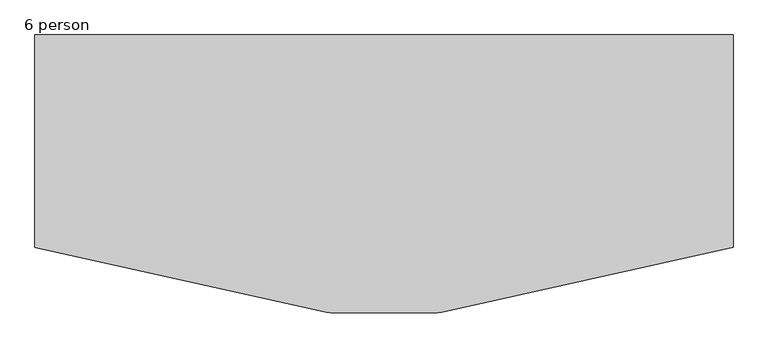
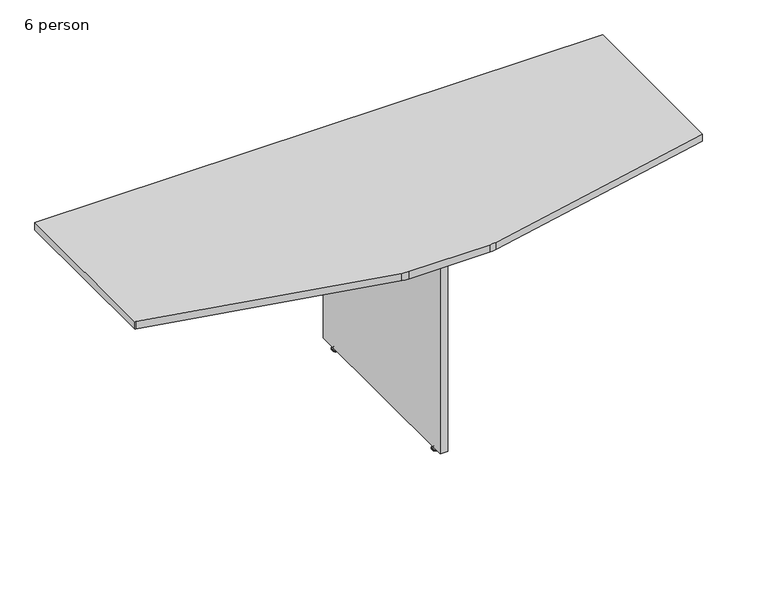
"""IFC4 building model written with IfcOpenShell, lengths in millimetres: furniture geometry, Nova Solutions - Collaboration Table - Boat_4-6 person : 6 person."""

from ifc_helpers import new_model, si_unit, point, frame, frame_2d, origin, place, context, project, spatial, polyline, circle_curve, ellipse_curve, trimmed, segment, composite_curve, outline, extrude, source, transform, mapped, element, save
from ifc_brep_helpers import plane_surface, cylinder_surface, revolved_surface, advanced_brep


def furniture_6_person_ace36e72(model_context):
    return source(origin(), model_context, "Body", "SolidModel", [
        advanced_brep(
        [(6.6776506, -631.3859375, 11.1125), (-6.6776506, -631.3859375, 11.1125), (0.0, -631.3859375, 11.1125), (6.6776506, -631.3859375, 9.525), (-6.6776506, -631.3859375, 9.525), (11.8855135, -631.3859375, 4.7748687), (-11.8855135, -631.3859375, 4.7748687), (12.7466506, -631.3859375, 3.989419), (-12.7466506, -631.3859375, 3.989419), (12.7466506, -631.3859375, 3.175), (-12.7466506, -631.3859375, 3.175), (11.8959119, -631.3859375, 0.0), (-11.8959119, -631.3859375, 0.0), (0.0, -631.3859375, 0.0)],
        [
            (0, 1, circle_curve(frame((0.0, -631.3859375, 11.1125), z_axis=(0.0, 0.0, 1.0), x_axis=(-1.0, 0.0, 0.0)), 6.6776506)),
            (1, 2),
            (2, 0),
            (1, 0, circle_curve(frame((0.0, -631.3859375, 11.1125), z_axis=(0.0, 0.0, 1.0), x_axis=(-1.0, 0.0, 0.0)), 6.6776506)),
            (3, 4, circle_curve(frame((0.0, -631.3859375, 9.525), z_axis=(0.0, 0.0, 1.0), x_axis=(-1.0, 0.0, 0.0)), 6.6776506)),
            (4, 1),
            (0, 3),
            (4, 3, circle_curve(frame((0.0, -631.3859375, 9.525), z_axis=(0.0, 0.0, 1.0), x_axis=(-1.0, 0.0, 0.0)), 6.6776506)),
            (5, 6, circle_curve(frame((0.0, -631.3859375, 4.7748687), z_axis=(0.0, 0.0, 1.0), x_axis=(-1.0, 0.0, 0.0)), 11.8855135)),
            (6, 4, circle_curve(frame((-12.9320627, -631.3859375, 11.1521822), z_axis=(0.0, -1.0, 0.0), x_axis=(1.0, 0.0, 0.0)), 6.462615)),
            (3, 5, circle_curve(frame((12.9320627, -631.3859375, 11.1521822), z_axis=(0.0, -1.0, 0.0), x_axis=(-1.0, 0.0, 0.0)), 6.462615)),
            (6, 5, circle_curve(frame((0.0, -631.3859375, 4.7748687), z_axis=(0.0, 0.0, 1.0), x_axis=(-1.0, 0.0, 0.0)), 11.8855135)),
            (7, 8, circle_curve(frame((0.0, -631.3859375, 3.989419), z_axis=(0.0, 0.0, 1.0), x_axis=(-1.0, 0.0, 0.0)), 12.7466506)),
            (8, 6, circle_curve(frame((-11.7124632, -631.3859375, 3.7203591), z_axis=(0.0, 1.0, 0.0), x_axis=(1.0, 0.0, 0.0)), 1.0686145)),
            (5, 7, circle_curve(frame((11.7124632, -631.3859375, 3.7203591), z_axis=(0.0, 1.0, 0.0), x_axis=(-1.0, 0.0, 0.0)), 1.0686145)),
            (8, 7, circle_curve(frame((0.0, -631.3859375, 3.989419), z_axis=(0.0, 0.0, 1.0), x_axis=(-1.0, 0.0, 0.0)), 12.7466506)),
            (9, 10, circle_curve(frame((0.0, -631.3859375, 3.175), z_axis=(0.0, 0.0, 1.0), x_axis=(-1.0, 0.0, 0.0)), 12.7466506)),
            (10, 8),
            (7, 9),
            (10, 9, circle_curve(frame((0.0, -631.3859375, 3.175), z_axis=(0.0, 0.0, 1.0), x_axis=(-1.0, 0.0, 0.0)), 12.7466506)),
            (11, 12, circle_curve(frame((0.0, -631.3859375, 0.0), z_axis=(0.0, 0.0, 1.0), x_axis=(-1.0, 0.0, 0.0)), 11.8959119)),
            (12, 10),
            (9, 11),
            (12, 11, circle_curve(frame((0.0, -631.3859375, 0.0), z_axis=(0.0, 0.0, 1.0), x_axis=(-1.0, 0.0, 0.0)), 11.8959119)),
            (13, 12),
            (11, 13),
        ],
        [
            plane_surface(frame((0.0, -631.3859375, 11.1125), z_axis=(0.0, 0.0, 1.0), x_axis=(-1.0, 0.0, 0.0))),
            cylinder_surface(frame((0.0, -631.3859375, 43.2095994), z_axis=(0.0, 0.0, -1.0), x_axis=(-1.0, 0.0, 0.0)), 6.6776506),
            revolved_surface(trimmed(ellipse_curve(frame((-12.9320627, -631.3859375, 11.1521822), z_axis=(0.0, 1.0, 0.0), x_axis=(1.0, 0.0, 0.0)), 6.462615, 6.462615), [point((-6.6776506, -631.3859375, 9.525))], [point((-11.8855135, -631.3859375, 4.7748687))], True, "CARTESIAN"), (0.0, -631.3859375, 43.2095994), (0.0, 0.0, -1.0)),
            revolved_surface(trimmed(ellipse_curve(frame((-11.7124632, -631.3859375, 3.7203591), z_axis=(0.0, -1.0, 0.0), x_axis=(1.0, 0.0, 0.0)), 1.0686145, 1.0686145), [point((-11.8855135, -631.3859375, 4.7748687))], [point((-12.7466506, -631.3859375, 3.989419))], True, "CARTESIAN"), (0.0, -631.3859375, 43.2095994), (0.0, 0.0, -1.0)),
            cylinder_surface(frame((0.0, -631.3859375, 43.2095994), z_axis=(0.0, 0.0, -1.0), x_axis=(-1.0, 0.0, 0.0)), 12.7466506),
            revolved_surface(polyline([(-12.7466506, -631.3859375, 3.175), (-11.8959119, -631.3859375, 0.0)]), (0.0, -631.3859375, 43.2095994), (0.0, 0.0, -1.0)),
            plane_surface(frame((0.0, -631.3859375, 0.0), z_axis=(0.0, 0.0, -1.0), x_axis=(-1.0, 0.0, 0.0))),
        ],
        [
            (0, [[1, 2, 3]]),
            (0, [[4, -3, -2]]),
            (1, [[5, 6, -1, 7]]),
            (1, [[8, -7, -4, -6]]),
            (2, [[9, 10, -5, 11]]),
            (2, [[12, -11, -8, -10]]),
            (3, [[13, 14, -9, 15]]),
            (3, [[16, -15, -12, -14]]),
            (4, [[17, 18, -13, 19]]),
            (4, [[20, -19, -16, -18]]),
            (5, [[21, 22, -17, 23]]),
            (5, [[24, -23, -20, -22]]),
            (6, [[25, -21, 26]]),
            (6, [[-26, -24, -25]]),
        ],
    ),
        advanced_brep(
        [(6.6776506, -50.4140625, 11.1125), (-6.6776506, -50.4140625, 11.1125), (0.0, -50.4140625, 11.1125), (6.6776506, -50.4140625, 9.525), (-6.6776506, -50.4140625, 9.525), (11.8855135, -50.4140625, 4.7748687), (-11.8855135, -50.4140625, 4.7748687), (12.7466506, -50.4140625, 3.989419), (-12.7466506, -50.4140625, 3.989419), (12.7466506, -50.4140625, 3.175), (-12.7466506, -50.4140625, 3.175), (11.8959119, -50.4140625, 0.0), (-11.8959119, -50.4140625, 0.0), (0.0, -50.4140625, 0.0)],
        [
            (0, 1, circle_curve(frame((0.0, -50.4140625, 11.1125), z_axis=(0.0, 0.0, 1.0), x_axis=(-1.0, 0.0, 0.0)), 6.6776506)),
            (1, 2),
            (2, 0),
            (1, 0, circle_curve(frame((0.0, -50.4140625, 11.1125), z_axis=(0.0, 0.0, 1.0), x_axis=(-1.0, 0.0, 0.0)), 6.6776506)),
            (3, 4, circle_curve(frame((0.0, -50.4140625, 9.525), z_axis=(0.0, 0.0, 1.0), x_axis=(-1.0, 0.0, 0.0)), 6.6776506)),
            (4, 1),
            (0, 3),
            (4, 3, circle_curve(frame((0.0, -50.4140625, 9.525), z_axis=(0.0, 0.0, 1.0), x_axis=(-1.0, 0.0, 0.0)), 6.6776506)),
            (5, 6, circle_curve(frame((0.0, -50.4140625, 4.7748687), z_axis=(0.0, 0.0, 1.0), x_axis=(-1.0, 0.0, 0.0)), 11.8855135)),
            (6, 4, circle_curve(frame((-12.9320627, -50.4140625, 11.1521822), z_axis=(0.0, -1.0, 0.0), x_axis=(1.0, 0.0, 0.0)), 6.462615)),
            (3, 5, circle_curve(frame((12.9320627, -50.4140625, 11.1521822), z_axis=(0.0, -1.0, 0.0), x_axis=(-1.0, 0.0, 0.0)), 6.462615)),
            (6, 5, circle_curve(frame((0.0, -50.4140625, 4.7748687), z_axis=(0.0, 0.0, 1.0), x_axis=(-1.0, 0.0, 0.0)), 11.8855135)),
            (7, 8, circle_curve(frame((0.0, -50.4140625, 3.989419), z_axis=(0.0, 0.0, 1.0), x_axis=(-1.0, 0.0, 0.0)), 12.7466506)),
            (8, 6, circle_curve(frame((-11.7124632, -50.4140625, 3.7203591), z_axis=(0.0, 1.0, 0.0), x_axis=(1.0, 0.0, 0.0)), 1.0686145)),
            (5, 7, circle_curve(frame((11.7124632, -50.4140625, 3.7203591), z_axis=(0.0, 1.0, 0.0), x_axis=(-1.0, 0.0, 0.0)), 1.0686145)),
            (8, 7, circle_curve(frame((0.0, -50.4140625, 3.989419), z_axis=(0.0, 0.0, 1.0), x_axis=(-1.0, 0.0, 0.0)), 12.7466506)),
            (9, 10, circle_curve(frame((0.0, -50.4140625, 3.175), z_axis=(0.0, 0.0, 1.0), x_axis=(-1.0, 0.0, 0.0)), 12.7466506)),
            (10, 8),
            (7, 9),
            (10, 9, circle_curve(frame((0.0, -50.4140625, 3.175), z_axis=(0.0, 0.0, 1.0), x_axis=(-1.0, 0.0, 0.0)), 12.7466506)),
            (11, 12, circle_curve(frame((0.0, -50.4140625, 0.0), z_axis=(0.0, 0.0, 1.0), x_axis=(-1.0, 0.0, 0.0)), 11.8959119)),
            (12, 10),
            (9, 11),
            (12, 11, circle_curve(frame((0.0, -50.4140625, 0.0), z_axis=(0.0, 0.0, 1.0), x_axis=(-1.0, 0.0, 0.0)), 11.8959119)),
            (13, 12),
            (11, 13),
        ],
        [
            plane_surface(frame((0.0, -50.4140625, 11.1125), z_axis=(0.0, 0.0, 1.0), x_axis=(-1.0, 0.0, 0.0))),
            cylinder_surface(frame((0.0, -50.4140625, 43.2095994), z_axis=(0.0, 0.0, -1.0), x_axis=(-1.0, 0.0, 0.0)), 6.6776506),
            revolved_surface(trimmed(ellipse_curve(frame((-12.9320627, -50.4140625, 11.1521822), z_axis=(0.0, 1.0, 0.0), x_axis=(1.0, 0.0, 0.0)), 6.462615, 6.462615), [point((-6.6776506, -50.4140625, 9.525))], [point((-11.8855135, -50.4140625, 4.7748687))], True, "CARTESIAN"), (0.0, -50.4140625, 43.2095994), (0.0, 0.0, -1.0)),
            revolved_surface(trimmed(ellipse_curve(frame((-11.7124632, -50.4140625, 3.7203591), z_axis=(0.0, -1.0, 0.0), x_axis=(1.0, 0.0, 0.0)), 1.0686145, 1.0686145), [point((-11.8855135, -50.4140625, 4.7748687))], [point((-12.7466506, -50.4140625, 3.989419))], True, "CARTESIAN"), (0.0, -50.4140625, 43.2095994), (0.0, 0.0, -1.0)),
            cylinder_surface(frame((0.0, -50.4140625, 43.2095994), z_axis=(0.0, 0.0, -1.0), x_axis=(-1.0, 0.0, 0.0)), 12.7466506),
            revolved_surface(polyline([(-12.7466506, -50.4140625, 3.175), (-11.8959119, -50.4140625, 0.0)]), (0.0, -50.4140625, 43.2095994), (0.0, 0.0, -1.0)),
            plane_surface(frame((0.0, -50.4140625, 0.0), z_axis=(0.0, 0.0, -1.0), x_axis=(-1.0, 0.0, 0.0))),
        ],
        [
            (0, [[1, 2, 3]]),
            (0, [[4, -3, -2]]),
            (1, [[5, 6, -1, 7]]),
            (1, [[8, -7, -4, -6]]),
            (2, [[9, 10, -5, 11]]),
            (2, [[12, -11, -8, -10]]),
            (3, [[13, 14, -9, 15]]),
            (3, [[16, -15, -12, -14]]),
            (4, [[17, 18, -13, 19]]),
            (4, [[20, -19, -16, -18]]),
            (5, [[21, 22, -17, 23]]),
            (5, [[24, -23, -20, -22]]),
            (6, [[25, -21, 26]]),
            (6, [[-26, -24, -25]]),
        ],
    ),
        extrude(outline(polyline([(12.85, -1.4), (12.85, -680.4), (-12.85, -680.4), (-12.85, -1.4), (12.85, -1.4)])), frame((0.0, 0.0, 15.6), z_axis=(0.0, 0.0, 1.0), x_axis=(1.0, 0.0, 0.0)), (0.0, 0.0, 1.0), 720.7),
        extrude(outline(composite_curve([segment(polyline([(-185.1130641, -755.5916743), (-975.8402648, -580.2916743)]), True, "CONTINUOUS"), segment(trimmed(circle_curve(frame_2d((-953.85, -481.1)), 101.6), [point((-975.8402648, -580.2916743))], [point((-979.2498676, -579.4738112))], False, "CARTESIAN"), True, "CONTINUOUS"), segment(polyline([(-979.2498676, -579.4738112), (-979.2498676, 0.0), (924.25, 0.0), (924.25, -579.5162956), (130.025292, -755.5916743)]), True, "CONTINUOUS"), segment(trimmed(circle_curve(frame_2d((108.0350272, -656.4)), 101.6), [point((130.025292, -755.5916743))], [point((108.0350272, -758.0))], False, "CARTESIAN"), True, "CONTINUOUS"), segment(polyline([(108.0350272, -758.0), (-163.1227993, -758.0)]), True, "CONTINUOUS"), segment(trimmed(circle_curve(frame_2d((-163.1227993, -656.4)), 101.6), [point((-163.1227993, -758.0))], [point((-185.1130641, -755.5916743))], False, "CARTESIAN"), True, "CONTINUOUS")], self_intersect=False)), frame((0.0, 0.0, 736.3), z_axis=(0.0, 0.0, 1.0), x_axis=(1.0, 0.0, 0.0)), (0.0, 0.0, 1.0), 25.7),
    ])


if __name__ == "__main__":
    model = new_model("IFC4")
    model_context = context("Model", 3, world=origin())
    ifc_project = project(units=[si_unit("LENGTHUNIT", "METRE", prefix="MILLI")], contexts=[model_context])
    site = spatial("IfcSite", under=ifc_project)
    building = spatial("IfcBuilding", under=site)
    placement = place(None, origin())
    furniture_6_person_shape = furniture_6_person_ace36e72(model_context)
    element("IfcFurniture", 1, ObjectType="Nova Solutions - Collaboration Table - Boat_4-6 person : 6 person", at=placement, inside=building, context=model_context, shape_type="MappedRepresentation", body=[
        mapped(furniture_6_person_shape, transform((0.0, 0.0, 0.0), x_axis=(1.0, 0.0, 0.0), y_axis=(0.0, 1.0, 0.0), z_axis=(0.0, 0.0, 1.0))),
    ])
    save(model, "model.ifc")
